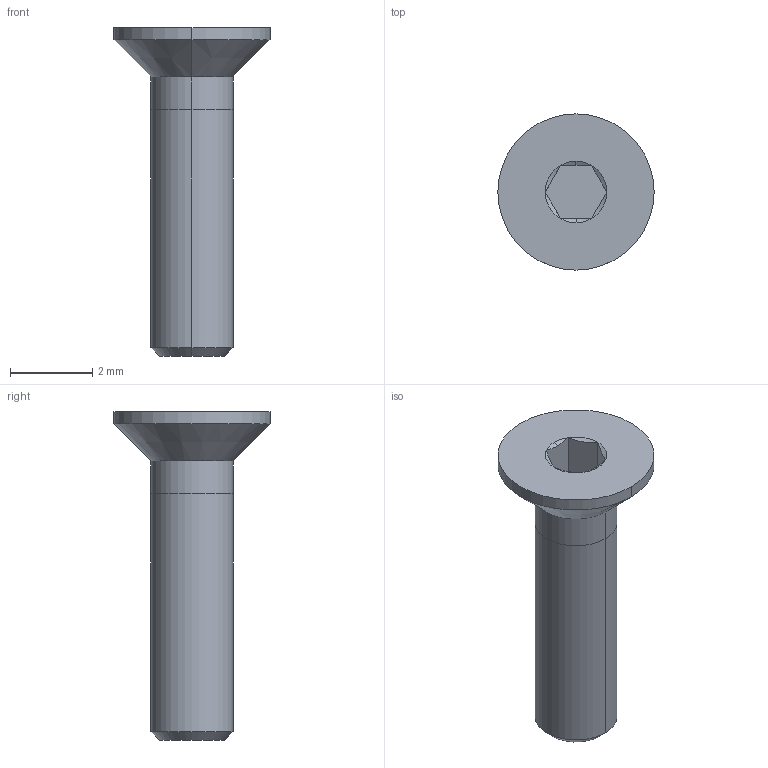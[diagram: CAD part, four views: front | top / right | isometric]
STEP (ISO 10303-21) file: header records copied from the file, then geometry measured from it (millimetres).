
FILE_DESCRIPTION(/* description */ ('VariCAD 2010-1.04 AP-203'),/* implementation_level */ '2;1');
FILE_NAME(/* name */ '0353-99-05',/* time_stamp */ '2010-01-13T14:35:23-07:00',/* author */ (''),/* organization */ (''),/* preprocessor_version */ 'ST-DEVELOPER v12',/* originating_system */ 'VariCAD 2010-1.04; kernel version (20090520)',/* authorisation */ '');
FILE_SCHEMA (('CONFIG_CONTROL_DESIGN'));
Length unit declared in the file: millimetre
Products named in the file (1): Part
Bounding box: 3.8 x 3.8 x 8 mm (x, y, z)
Volume: 27.2 mm3; surface area: 143.9 mm2
Topology: 2 solids, 2 shells, 33 faces, 64 edges, 36 vertices
Faces by surface type: cone 12, plane 11, cylinder 10
Entity records: 904 total; most frequent: CARTESIAN_POINT 176, DIRECTION 156, ORIENTED_EDGE 128, EDGE_CURVE 64, AXIS2_PLACEMENT_3D 64, EDGE_LOOP 36, VERTEX_POINT 36, ADVANCED_FACE 33
